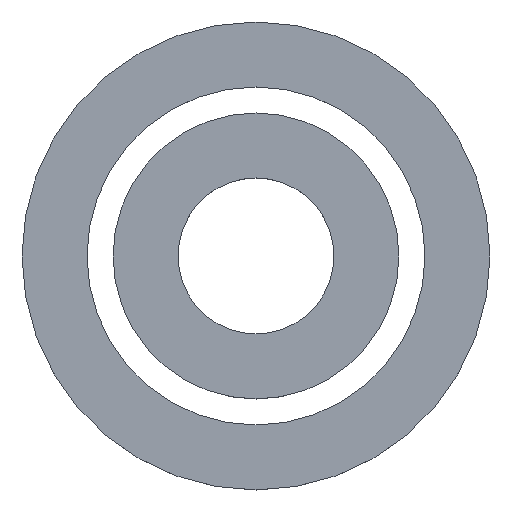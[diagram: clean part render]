
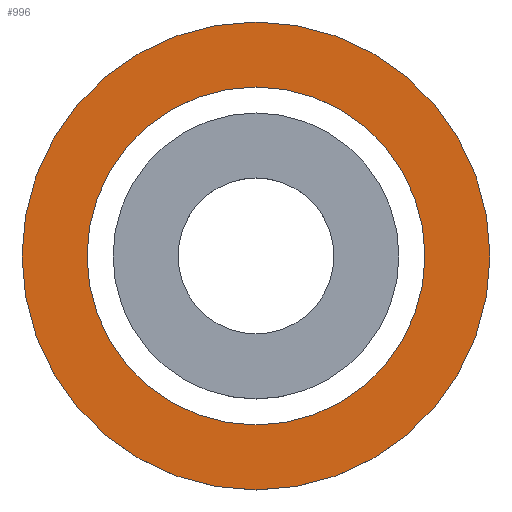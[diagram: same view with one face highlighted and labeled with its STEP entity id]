
A CAD part, top view. The second image highlights one B-rep face of the part: STEP entity #996.
In plain terms, the highlighted planar face has unit normal (0, 0, 1) as drawn and (0, 0, -1) by its records, which use the part's own axes.
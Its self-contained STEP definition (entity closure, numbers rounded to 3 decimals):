
#870=CARTESIAN_POINT('',(0.,0.,-1.2));
#871=DIRECTION('',(0.,0.,1.));
#872=DIRECTION('',(1.,0.,0.));
#873=AXIS2_PLACEMENT_3D('',#870,#871,#872);
#875=CARTESIAN_POINT('',(0.,0.,-1.2));
#876=DIRECTION('',(0.,0.,1.));
#877=DIRECTION('',(-1.,0.,0.));
#878=AXIS2_PLACEMENT_3D('',#875,#876,#877);
#880=CARTESIAN_POINT('',(0.,0.,-1.2));
#881=DIRECTION('',(0.,0.,-1.));
#882=DIRECTION('',(1.,0.,0.));
#883=AXIS2_PLACEMENT_3D('',#880,#881,#882);
#885=CARTESIAN_POINT('',(0.,0.,-1.2));
#886=DIRECTION('',(0.,0.,-1.));
#887=DIRECTION('',(-1.,0.,0.));
#888=AXIS2_PLACEMENT_3D('',#885,#886,#887);
#902=CARTESIAN_POINT('',(-18.,0.,-1.2));
#903=VERTEX_POINT('',#902);
#904=CARTESIAN_POINT('',(18.,0.,-1.2));
#905=VERTEX_POINT('',#904);
#910=CARTESIAN_POINT('',(13.,0.,-1.2));
#911=CARTESIAN_POINT('',(-13.,0.,-1.2));
#912=VERTEX_POINT('',#910);
#913=VERTEX_POINT('',#911);
#981=CARTESIAN_POINT('',(0.,0.,-1.2));
#982=DIRECTION('',(0.,0.,-1.));
#983=DIRECTION('',(-1.,0.,0.));
#984=AXIS2_PLACEMENT_3D('',#981,#982,#983);
#985=PLANE('',#984);
#986=ORIENTED_EDGE('',*,*,#923,.T.);
#987=ORIENTED_EDGE('',*,*,#968,.T.);
#988=EDGE_LOOP('',(#986,#987));
#989=FACE_OUTER_BOUND('',#988,.F.);
#991=ORIENTED_EDGE('',*,*,#990,.T.);
#993=ORIENTED_EDGE('',*,*,#992,.T.);
#994=EDGE_LOOP('',(#991,#993));
#995=FACE_BOUND('',#994,.F.);
#996=ADVANCED_FACE('',(#989,#995),#985,.T.);
#874=CIRCLE('',#873,18.);
#879=CIRCLE('',#878,18.);
#884=CIRCLE('',#883,13.);
#889=CIRCLE('',#888,13.);
#923=EDGE_CURVE('',#905,#903,#874,.T.);
#968=EDGE_CURVE('',#903,#905,#879,.T.);
#990=EDGE_CURVE('',#912,#913,#884,.T.);
#992=EDGE_CURVE('',#913,#912,#889,.T.);
